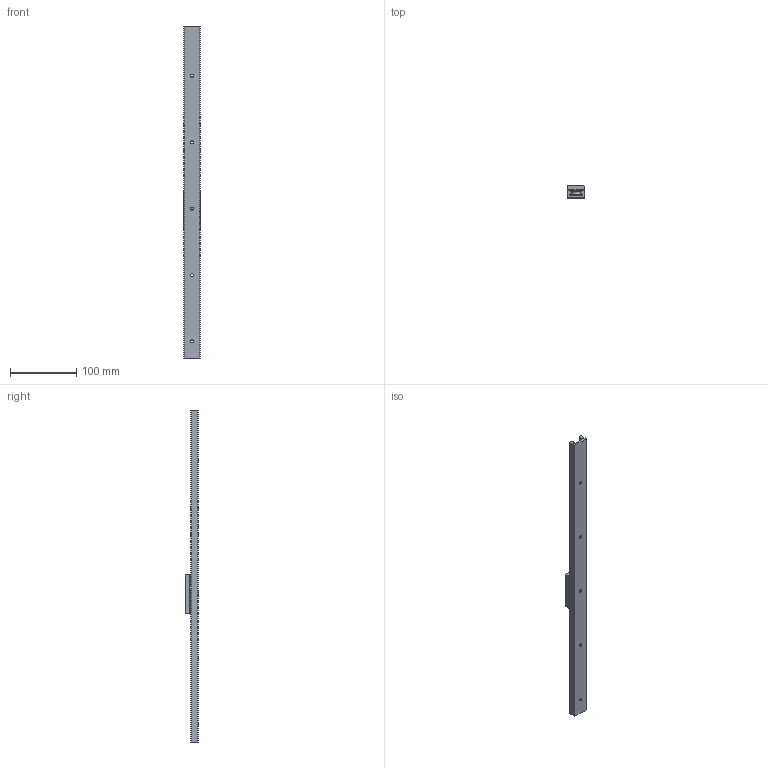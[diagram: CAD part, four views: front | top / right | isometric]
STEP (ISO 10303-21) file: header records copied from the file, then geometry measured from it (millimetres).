
FILE_DESCRIPTION (( 'STEP AP214' ), '1' );
FILE_NAME ('LSI2519.STEP', '2023-10-26T23:13:57', ( '' ), ( '' ), 'SwSTEP 2.0', 'SolidWorks 2019', '' );
FILE_SCHEMA (( 'AUTOMOTIVE_DESIGN' ));
Length unit declared in the file: millimetre
Products named in the file (3): LSI2519; LSI2519キャリッジ; LSI2519レール
Assembly tree (2 placements, depth 2):
  LSI2519
    LSI2519レール
    LSI2519キャリッジ
Bounding box: 25 x 19 x 500 mm (x, y, z)
Volume: 84298.1 mm3; surface area: 53934.2 mm2
Topology: 2 solids, 2 shells, 154 faces, 347 edges, 218 vertices
Faces by surface type: plane 61, cylinder 46, cone 44, torus 3
Full cylindrical faces by diameter (mm): 3.3 x4, 4.5 x5, 5 x3, 8.6 x6, 10 x3, 14 x3, 16 x6
Entity records: 4302 total; most frequent: CARTESIAN_POINT 927, DIRECTION 678, ORIENTED_EDGE 592, EDGE_CURVE 296, AXIS2_PLACEMENT_3D 295, EDGE_LOOP 234, VERTEX_POINT 208, FACE_OUTER_BOUND 187
